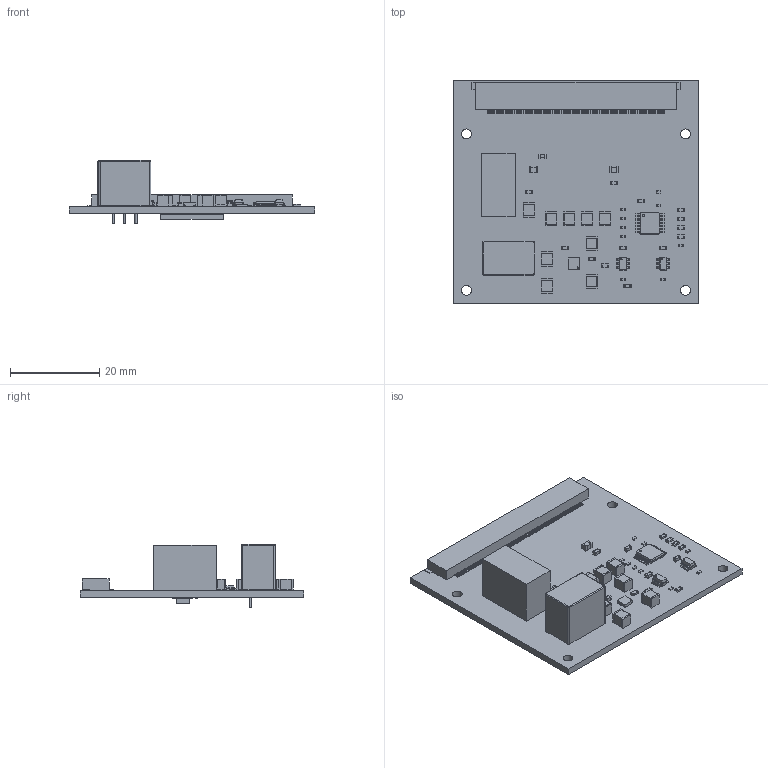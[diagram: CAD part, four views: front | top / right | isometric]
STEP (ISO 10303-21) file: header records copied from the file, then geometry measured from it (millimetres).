
FILE_DESCRIPTION(('KiCad electronic assembly'),'2;1');
FILE_NAME('display-adapter.step','2026-10-21T21:20:52',('Pcbnew'),( 'Kicad'),'Open CASCADE STEP processor 7.9','KiCad to STEP converter' ,'Unknown');
FILE_SCHEMA(('AUTOMOTIVE_DESIGN { 1 0 10303 214 1 1 1 1 }'));
Length unit declared in the file: millimetre
Products named in the file (34): display-adapter 1; R_0402_1005Metric; Converter_DCDC_TRACO_TSR-1_THT; Converter_DCDC_TRACO_TSR_1_THT; C_0603_1608Metric; R_0603_1608Metric; FH28H-80S; Open CASCADE STEP translator 7.9 1; C_1210_3225Metric; SOT-23-6; TSR2-2433-trimmed; Open CASCADE STEP translator 7.9 5; WSON-10-1EP_2.5x2.5mm_P0.5mm_EP1.2x2mm; CQ assembly; 7a0a93aa-926b-11ed-8620-a0cec80452fd; 7a0a93aa-926b-11ed-8620-a0cec80452fd_part; 7a0a9878-926b-11ed-8620-a0cec80452fd; 7a0a9878-926b-11ed-8620-a0cec80452fd_part; 7a0a9b48-926b-11ed-8620-a0cec80452fd; 7a0a9b48-926b-11ed-8620-a0cec80452fd_part; 7a0a9db4-926b-11ed-8620-a0cec80452fd; 7a0a9db4-926b-11ed-8620-a0cec80452fd_part; C_0805_2012Metric; TSSOP-14_4.4x5mm_P0.65mm; DF23C-50DP; Open CASCADE STEP translator 7.9 2; display-adapter_PCB
Assembly tree (63 placements, depth 6):
  display-adapter 1
    R_0402_1005Metric  x9
      R_0402_1005Metric
    Converter_DCDC_TRACO_TSR-1_THT
      Converter_DCDC_TRACO_TSR_1_THT
    C_0603_1608Metric  x7
      C_0603_1608Metric
    R_0603_1608Metric  x7
      R_0603_1608Metric
    FH28H-80S
      Open CASCADE STEP translator 7.9 1
    C_1210_3225Metric  x9
      C_1210_3225Metric
    SOT-23-6  x2
      SOT-23-6
    TSR2-2433-trimmed
      Open CASCADE STEP translator 7.9 5
    WSON-10-1EP_2.5x2.5mm_P0.5mm_EP1.2x2mm
      CQ assembly
        7a0a93aa-926b-11ed-8620-a0cec80452fd
          7a0a93aa-926b-11ed-8620-a0cec80452fd_part
          7a0a9878-926b-11ed-8620-a0cec80452fd
            7a0a9878-926b-11ed-8620-a0cec80452fd_part
          7a0a9b48-926b-11ed-8620-a0cec80452fd
            7a0a9b48-926b-11ed-8620-a0cec80452fd_part
          7a0a9db4-926b-11ed-8620-a0cec80452fd
            7a0a9db4-926b-11ed-8620-a0cec80452fd_part
    C_0805_2012Metric  x2
      C_0805_2012Metric
    TSSOP-14_4.4x5mm_P0.65mm
      TSSOP-14_4.4x5mm_P0.65mm
    DF23C-50DP
      Open CASCADE STEP translator 7.9 2
    display-adapter_PCB
Bounding box: 55 x 50 x 14.2 mm (x, y, z)
Volume: 7089.9 mm3; surface area: 9136.3 mm2
Topology: 190 solids, 190 shells, 2394 faces, 5707 edges, 3738 vertices
Faces by surface type: plane 1849, cylinder 490, bspline 48, torus 7
Full cylindrical faces by diameter (mm): 0.25 x1, 0.5 x3, 1 x3, 1.1 x3, 2.2 x4
Entity records: 45897 total; most frequent: CARTESIAN_POINT 7270, ORIENTED_EDGE 6728, DIRECTION 6726, EDGE_CURVE 3364, LINE 2956, VECTOR 2956, VERTEX_POINT 2205, AXIS2_PLACEMENT_3D 1885
